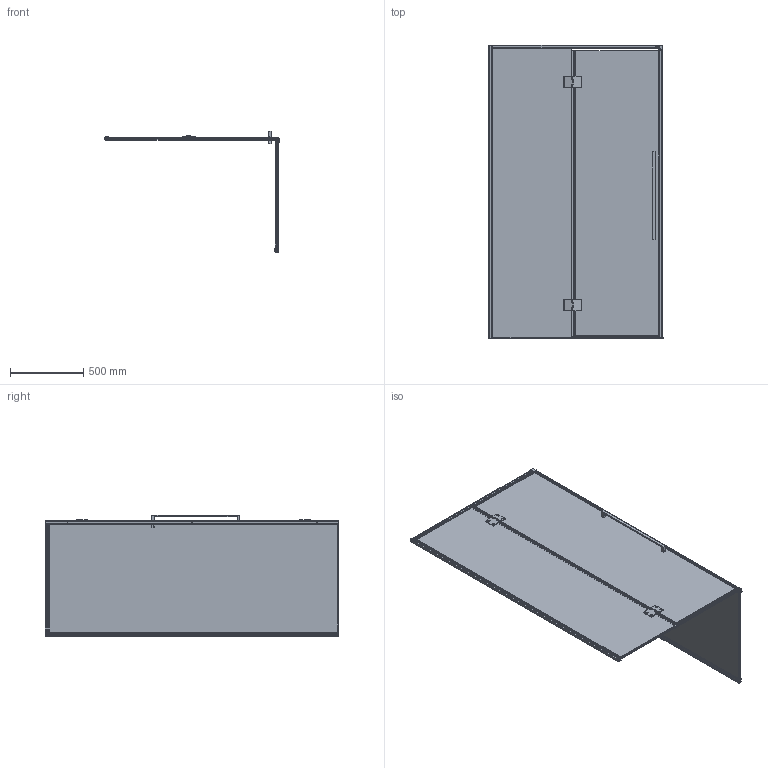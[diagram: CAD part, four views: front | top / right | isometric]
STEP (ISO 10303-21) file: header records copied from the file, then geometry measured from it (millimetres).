
FILE_DESCRIPTION((''),'2;1');
FILE_NAME('00-L617521-11_ASM_ASM','2024-02-23T14:36:59',('Administrator'),(''),'CREO PARAMETRIC BY PTC INC, 2017110','CREO PARAMETRIC BY PTC INC, 2017110','');
FILE_SCHEMA(('CONFIG_CONTROL_DESIGN'));
Products named in the file (45): _N00_1-2125; _N00_1-5765; _N0004_1; YTZG_ST4X10_1; _N00_ASM_1_ASM; _N00_1-11296; _N100_1; 000_2; 1-100_2; 000_ASM_2_ASM; 001_2-15646; 1-300_2; 001_ASM_3_ASM; DBT_ST4X30_1; _0001_1; 0004_1; _N000_1-44654; _N000_1-45284; 0019_1; _5240001_1; _N000_2; 90000_1; _10_1; PRT0003__2; _N000_ASM_2_ASM; PRT0001_3; PRT0002_3; PRT0004_3; PRT0005_3; PRT0003_3; PRT0006_3; LJCT_M6X12_3; 000_3; 0008_ASM_3_ASM; 001_2-62061; 00_4; 100_2-64338; BASHOUGAI2_1; 100_2-65992; S617011_ASM_ASM_1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
Assembly tree (64 placements, depth 4):
  00-L617521-11_ASM_ASM
    00-L617521-11_ASM_4_ASM
      _N00_ASM_1_ASM  x2
        _N00_1-2125
        _N00_1-5765
        _N0004_1
        YTZG_ST4X10_1
      _N00_1-11296
      _N100_1
      000_ASM_2_ASM
        000_2
        1-100_2
      001_ASM_3_ASM
        001_2-15646
        1-300_2
      DBT_ST4X30_1  x4
      _0001_1
      0004_1
      _N000_1-44654  x2
      _N000_1-45284  x2
      0019_1
      _5240001_1
      _N000_ASM_2_ASM
        _N000_2
        90000_1
        _10_1
        PRT0003__2
      0008_ASM_3_ASM  x2
        PRT0001_3
        PRT0002_3
        PRT0004_3
        PRT0005_3
        PRT0003_3
        PRT0006_3
        LJCT_M6X12_3
        000_3
      001_2-62061
      00_4
      100_2-64338
      BASHOUGAI2_1
      100_2-65992
      S617011_ASM_ASM_1
      66666666666666888888888888888_1
      5555555555555555555555555555_1
      6666666666666666666666666666666
Bounding box: 1198.7 x 2002 x 829.6 mm (x, y, z)
Volume: 24175284.7 mm3; surface area: 10284885.1 mm2
Topology: 80 solids, 81 shells, 3109 faces, 8569 edges, 5629 vertices
Faces by surface type: plane 1339, cylinder 1239, bspline 283, torus 94, cone 78, sphere 32, extrusion 28, revolution 16
Entity records: 68267 total; most frequent: CARTESIAN_POINT 24508, ORIENTED_EDGE 9158, DIRECTION 8817, EDGE_CURVE 4579, VERTEX_POINT 3036, AXIS2_PLACEMENT_3D 2944, VECTOR 2927, LINE 2922
